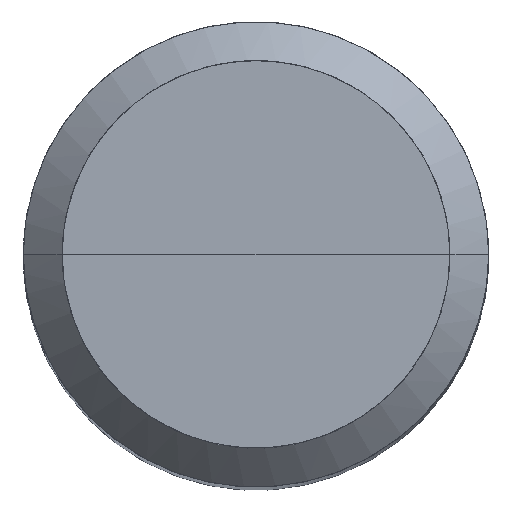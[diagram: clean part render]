
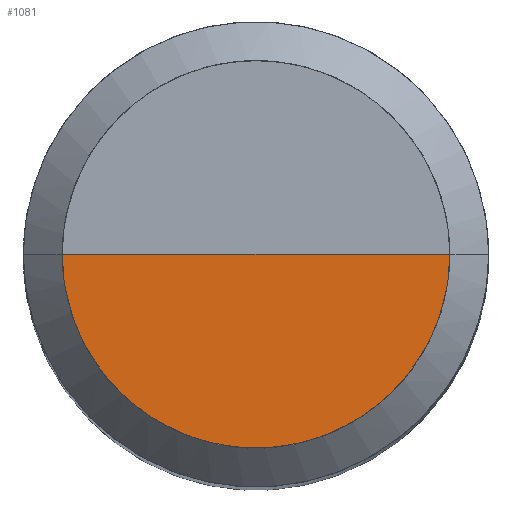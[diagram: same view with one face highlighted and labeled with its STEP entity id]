
A CAD part, top view. The second image highlights one B-rep face of the part: STEP entity #1081.
In plain terms, the highlighted free-form (B-spline) face has degree [1, 2] with [2, 5] control points.
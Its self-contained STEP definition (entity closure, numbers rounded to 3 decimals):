
#722=CARTESIAN_POINT('',(5.0,0.0,49.08));
#726=CARTESIAN_POINT('',(-5.0,0.0,49.08));
#727=CARTESIAN_POINT('',(0.0,0.0,49.08));
#740=CARTESIAN_POINT('',(-5.0,-5.0,49.08));
#741=CARTESIAN_POINT('',(0.0,-5.0,49.08));
#742=CARTESIAN_POINT('',(5.0,-5.0,49.08));
#1066=(
BOUNDED_SURFACE()
B_SPLINE_SURFACE(1,2,(
(#726,#740,#741,#742,#722),
(#727,#727,#727,#727,#727)
), .UNSPECIFIED.,.F.,.F.,.F.)
B_SPLINE_SURFACE_WITH_KNOTS((2,2),(3,2,3),(
0.0,1.0),(
0.0,0.5,1.0), .UNSPECIFIED.)
GEOMETRIC_REPRESENTATION_ITEM()
RATIONAL_B_SPLINE_SURFACE(((1.0,0.707,1.0,0.707,1.0),
(1.0,0.707,1.0,0.707,1.0)
))
REPRESENTATION_ITEM('')
SURFACE()
);
#1067=(
BOUNDED_CURVE()
B_SPLINE_CURVE(2,(#722,#742,#741,#740,#726),.UNSPECIFIED.,.F.,.F.)
B_SPLINE_CURVE_WITH_KNOTS((3,2,3),
(0.0,0.5,1.0),.UNSPECIFIED.)
CURVE()
GEOMETRIC_REPRESENTATION_ITEM()
RATIONAL_B_SPLINE_CURVE((1.0,0.707,1.0,0.707,1.0))
REPRESENTATION_ITEM('')
);
#1068=(
BOUNDED_CURVE()
B_SPLINE_CURVE(1,(#726,#727),.UNSPECIFIED.,.F.,.F.)
B_SPLINE_CURVE_WITH_KNOTS((2,2),
(0.0,1.0),.UNSPECIFIED.)
CURVE()
GEOMETRIC_REPRESENTATION_ITEM()
RATIONAL_B_SPLINE_CURVE((1.0,1.0))
REPRESENTATION_ITEM('')
);
#1069=(
BOUNDED_CURVE()
B_SPLINE_CURVE(1,(#727,#722),.UNSPECIFIED.,.F.,.F.)
B_SPLINE_CURVE_WITH_KNOTS((2,2),
(0.0,1.0),.UNSPECIFIED.)
CURVE()
GEOMETRIC_REPRESENTATION_ITEM()
RATIONAL_B_SPLINE_CURVE((1.0,1.0))
REPRESENTATION_ITEM('')
);
#1070=VERTEX_POINT('',#722);
#1071=VERTEX_POINT('',#726);
#1072=VERTEX_POINT('',#727);
#1073=EDGE_CURVE('',#1070,#1071,#1067,.T.);
#1074=EDGE_CURVE('',#1071,#1072,#1068,.T.);
#1075=EDGE_CURVE('',#1072,#1070,#1069,.T.);
#1076=ORIENTED_EDGE('',*,*,#1073,.T.);
#1077=ORIENTED_EDGE('',*,*,#1074,.T.);
#1078=ORIENTED_EDGE('',*,*,#1075,.T.);
#1079=EDGE_LOOP('',(#1076,#1077,#1078));
#1080=FACE_OUTER_BOUND('',#1079,.T.);
#1081=ADVANCED_FACE('',(#1080),#1066,.T.);
